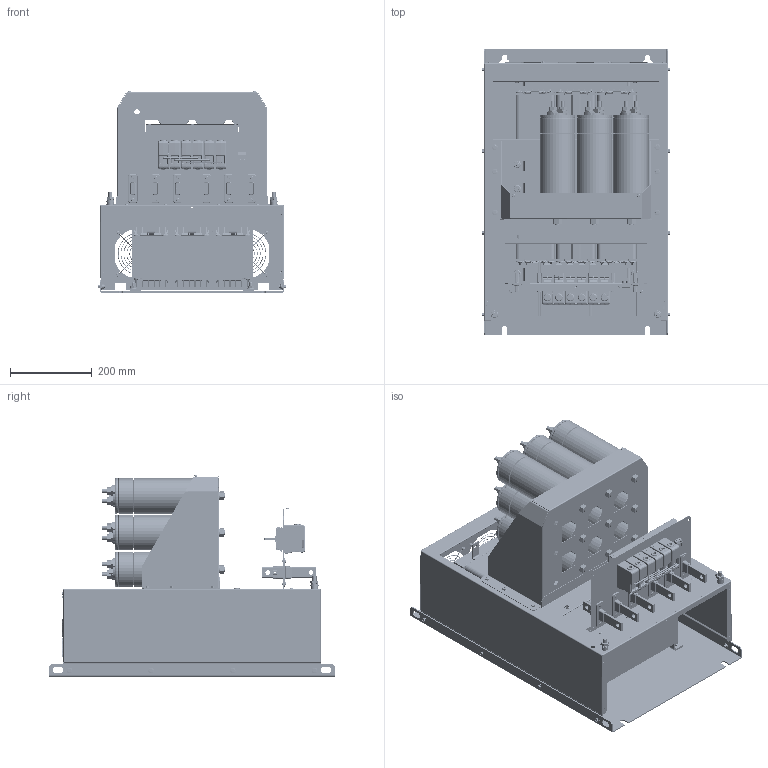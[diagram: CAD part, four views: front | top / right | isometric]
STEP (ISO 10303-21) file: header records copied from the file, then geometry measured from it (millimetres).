
FILE_DESCRIPTION(/* description */ (''),/* implementation_level */ '2;1');
FILE_NAME(/* name */ 'C:\Users\Erika.Jenzer\OneDrive - Schaffner EMV AG\Desktop\Neuer Ordner (2)\Plutus Reactors purchasing\CUSTOMER FS G IP00 9 CAPS.stp',/* time_stamp */ '2023-12-07T09:24:55+01:00',/* author */ ('erika.jenzer'),/* organization */ (''),/* preprocessor_version */ 'ST-DEVELOPER v18.1',/* originating_system */ 'Autodesk Inventor 2020',/* authorisation */ '');
FILE_SCHEMA (('AUTOMOTIVE_DESIGN { 1 0 10303 214 3 1 1 }'));
Products named in the file (1): CUSTOMER FS G IP00 9 CAPS
Bounding box: 459.59 x 700 x 492.95 mm (x, y, z)
Volume: 35276068.2 mm3; surface area: 4302970 mm2
Topology: 23 solids, 23 shells, 14975 faces, 39457 edges, 24681 vertices
Faces by surface type: plane 7912, cylinder 3761, bspline 1886, torus 689, cone 643, sphere 84
Full cylindrical faces by diameter (mm): 1 x2, 1.2 x1, 1.5 x1, 2.8 x6, 3.242 x11, 3.5 x4, 4 x77, 4.1 x14, 4.3 x10, 4.5 x48, 4.881 x6, 5.4 x6, 5.5 x16, 6 x28, 6.5 x10, 7 x2, 7.9 x19, 8 x25, 8.3 x6, 8.7 x10, 9 x20, 9.188 x2, 9.9 x3, 10 x28, 10.5 x2, 11 x28, 11.05 x4, 12 x11, 12.5 x1, 12.7 x3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
Entity records: 585180 total; most frequent: CARTESIAN_POINT 203622, ORIENTED_EDGE 78614, DIRECTION 75681, EDGE_CURVE 39307, AXIS2_PLACEMENT_3D 26192, VERTEX_POINT 24681, LINE 23297, VECTOR 23297
